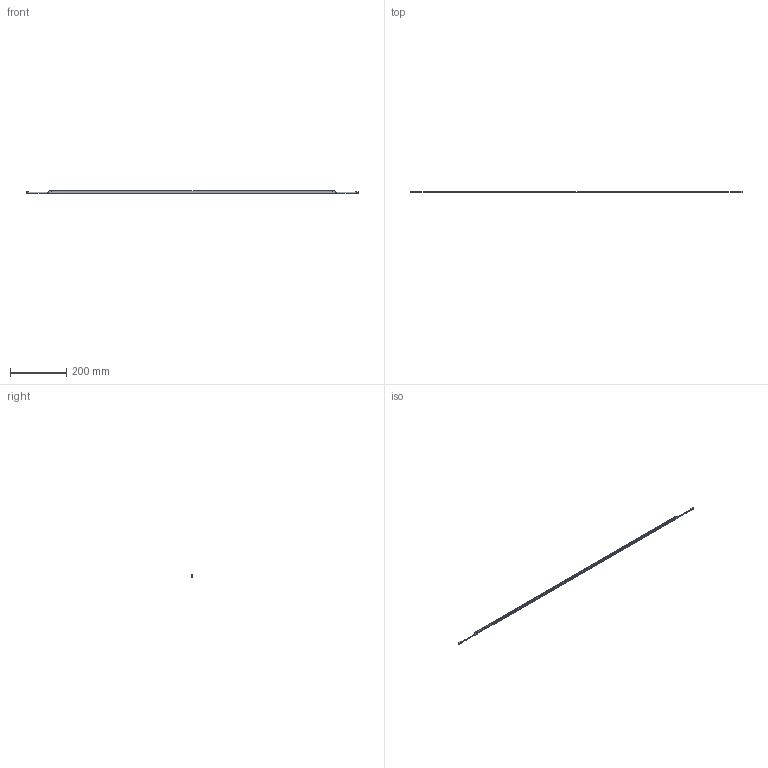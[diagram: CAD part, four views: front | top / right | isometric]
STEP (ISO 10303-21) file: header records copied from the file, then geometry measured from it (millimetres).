
FILE_DESCRIPTION (( 'STEP AP203' ), '1' );
FILE_NAME ('Razor X - 1 Meter.STEP', '2024-08-15T10:43:00', ( '' ), ( '' ), 'SwSTEP 2.0', 'SolidWorks 2020', '' );
FILE_SCHEMA (( 'CONFIG_CONTROL_DESIGN' ));
Length unit declared in the file: millimetre
Products named in the file (1): Razor X - 1 Meter
Bounding box: 1176 x 5.5 x 10.66 mm (x, y, z)
Volume: 13661.7 mm3; surface area: 26566.4 mm2
Topology: 1 solids, 1 shells, 1309 faces, 2691 edges, 1794 vertices
Faces by surface type: cylinder 807, plane 498, bspline 4
Entity records: 36596 total; most frequent: CARTESIAN_POINT 6971, DIRECTION 6929, ORIENTED_EDGE 5382, AXIS2_PLACEMENT_3D 2936, EDGE_CURVE 2691, VERTEX_POINT 1794, EDGE_LOOP 1723, CIRCLE 1630
